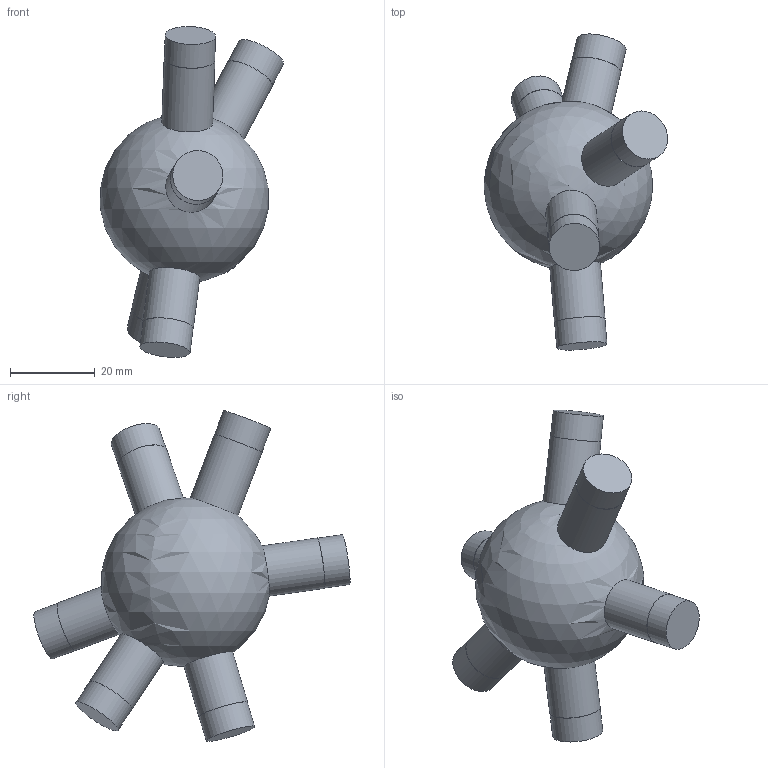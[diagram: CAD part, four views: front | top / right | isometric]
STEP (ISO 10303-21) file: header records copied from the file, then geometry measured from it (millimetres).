
FILE_DESCRIPTION(('Open CASCADE Model'),'2;1');
FILE_NAME('Open CASCADE Shape Model','2026-10-21T12:47:57',('Author'),( 'Open CASCADE'),'Open CASCADE STEP processor 7.9','Open CASCADE 7.9' ,'Unknown');
FILE_SCHEMA(('AUTOMOTIVE_DESIGN { 1 0 10303 214 1 1 1 1 }'));
Length unit declared in the file: millimetre
Products named in the file (1): Open CASCADE STEP translator 7.9 129
Bounding box: 43.26 x 74.65 x 78.12 mm (x, y, z)
Volume: 46517.8 mm3; surface area: 9462.7 mm2
Topology: 1 solids, 1 shells, 25 faces, 41 edges, 28 vertices
Faces by surface type: cylinder 12, plane 12, sphere 1
Full cylindrical faces by diameter (mm): 11.9 x6, 12 x6
Entity records: 1722 total; most frequent: CARTESIAN_POINT 788, DIRECTION 192, ORIENTED_EDGE 80, PCURVE 80, DEFINITIONAL_REPRESENTATION 80, LINE 66, VECTOR 66, AXIS2_PLACEMENT_3D 54
